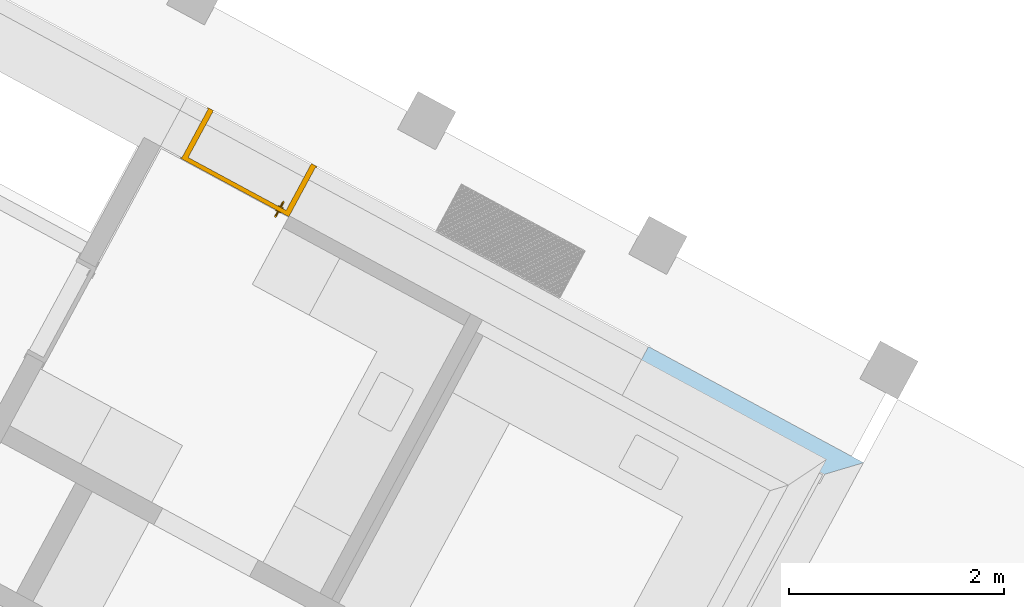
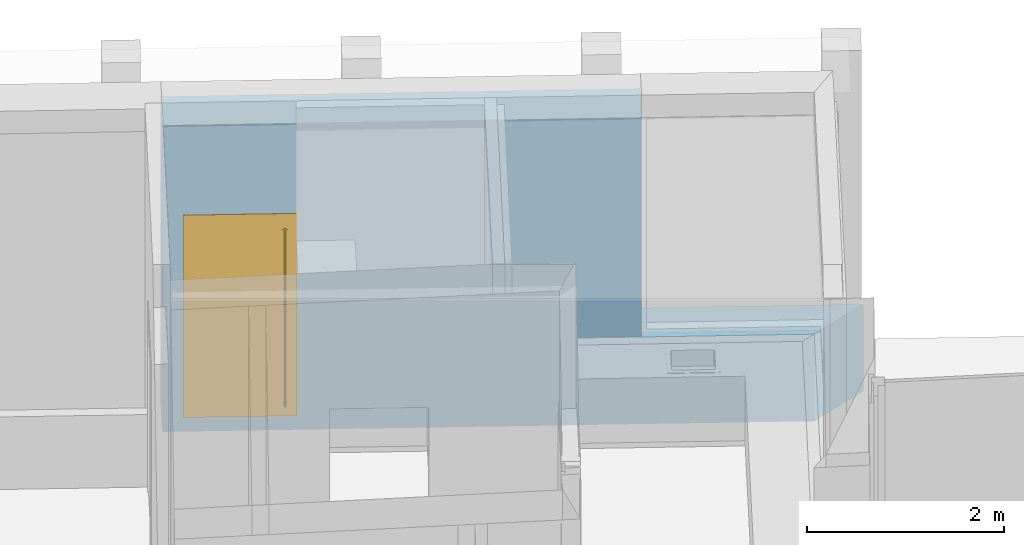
# One storey, part 10 of 36: 1 door, 2 openings, plus 1 element that does not belong to this part.
"""IFC2X3 building model written with IfcOpenShell, lengths in metres."""

import ifcopenshell
import ifcopenshell.guid

model = None  # the IFC model being written
_history = None  # IfcOwnerHistory: only IFC2X3 demands one
_inside = {}  # id of a spatial element -> (the spatial element, [elements in it])
_under = {}  # id of a project, library or spatial element -> (it, [spatial elements below it])
_declared = {}  # id of a project -> (the project, [libraries it declares])
_typed = {}  # id of a type object -> (the type object, [elements of that type])
_made_of = {}  # id of a material, layer set ... -> (it, [elements and type objects made of it])


def new_model(schema):
    """Start an empty IFC model of exactly this schema.

    Asked for "IFC4X3", IfcOpenShell would pick the latest addendum, in which some entities
    have other attributes; the version numbers below select the first issue.
    IFC2X3 requires an IfcOwnerHistory on every rooted entity: one is made here for all.
    """
    global model, _history
    if schema == "IFC4X3":
        model = ifcopenshell.file(schema_version=(4, 3, 0, 0))
    else:
        model = ifcopenshell.file(schema=schema)
    _inside.clear()
    _under.clear()
    _declared.clear()
    _typed.clear()
    _made_of.clear()
    _history = None
    if model.schema == "IFC2X3":
        org = make("IfcOrganization", Name="unknown")
        user = make(
            "IfcPersonAndOrganization",
            ThePerson=make("IfcPerson", FamilyName="unknown"),
            TheOrganization=org,
        )
        app = make(
            "IfcApplication",
            ApplicationDeveloper=org,
            Version="unknown",
            ApplicationFullName="unknown",
            ApplicationIdentifier="unknown",
        )
        _history = make(
            "IfcOwnerHistory",
            OwningUser=user,
            OwningApplication=app,
            ChangeAction="ADDED",
            CreationDate=0,
        )
    return model


def make(cls, **values):
    """One entity of the class cls with the attributes given. An attribute that is None is left unset."""
    return model.create_entity(
        cls, **{name: value for name, value in values.items() if value is not None}
    )


def entity(cls, *values):
    """Any entity or typed value of the class cls, its attributes in the order of the schema. None: left unset."""
    e = model.create_entity(cls)
    for i, value in enumerate(values):
        if value is not None:
            e[i] = value
    return e


def rooted(cls, **values):
    """An entity with a GlobalId (a new one), such as an element, a storey or a relation."""
    return make(cls, GlobalId=ifcopenshell.guid.new(), OwnerHistory=_history, **values)


def si_unit(unit_type, name, prefix=None):
    """IfcSIUnit, for example si_unit("LENGTHUNIT", "METRE", prefix="MILLI")."""
    return make("IfcSIUnit", UnitType=unit_type, Prefix=prefix, Name=name)


def converted_unit(unit_type, name, factor, base, dimensions=None, offset=None):
    """IfcConversionBasedUnit, such as the inch: factor (a typed value) times the base unit."""
    return make(
        "IfcConversionBasedUnit"
        if offset is None
        else "IfcConversionBasedUnitWithOffset",
        ConversionOffset=offset,
        Dimensions=None
        if dimensions is None
        else entity("IfcDimensionalExponents", *dimensions),
        UnitType=unit_type,
        Name=name,
        ConversionFactor=make(
            "IfcMeasureWithUnit", ValueComponent=factor, UnitComponent=base
        ),
    )


def derived_unit(unit_type, elements):
    """IfcDerivedUnit: a product of units, each with its exponent."""
    return make(
        "IfcDerivedUnit",
        Elements=[
            make("IfcDerivedUnitElement", Unit=unit, Exponent=power)
            for unit, power in elements
        ],
        UnitType=unit_type,
    )


def money_unit(currency):
    """IfcMonetaryUnit."""
    return make("IfcMonetaryUnit", Currency=currency)


def assignment(units):
    """IfcUnitAssignment: the units of a project."""
    return None if units is None else make("IfcUnitAssignment", Units=units)


def point(xyz):
    """IfcCartesianPoint."""
    return None if xyz is None else make("IfcCartesianPoint", Coordinates=xyz)


def direction(xyz):
    """IfcDirection."""
    return None if xyz is None else make("IfcDirection", DirectionRatios=xyz)


def frame(location, z_axis=None, x_axis=None):
    """IfcAxis2Placement3D, a coordinate frame: its origin and axes. An axis left out is left unset."""
    return make(
        "IfcAxis2Placement3D",
        Location=point(location),
        Axis=direction(z_axis),
        RefDirection=direction(x_axis),
    )


def frame_2d(location, x_axis=None):
    """IfcAxis2Placement2D, a coordinate frame in the plane: its origin and x axis."""
    return make(
        "IfcAxis2Placement2D", Location=point(location), RefDirection=direction(x_axis)
    )


def origin_with_axes():
    """The frame at (0, 0, 0) with the z axis (0, 0, 1) and the x axis (1, 0, 0) written out."""
    return frame((0.0, 0.0, 0.0), z_axis=(0.0, 0.0, 1.0), x_axis=(1.0, 0.0, 0.0))


def origin_2d_with_axis():
    """The frame at (0, 0) in the plane with the x axis (1, 0) written out."""
    return frame_2d((0.0, 0.0), x_axis=(1.0, 0.0))


def place(relative_to, where):
    """IfcLocalPlacement: puts the frame where relative to a parent placement (None: the world)."""
    return make(
        "IfcLocalPlacement", PlacementRelTo=relative_to, RelativePlacement=where
    )


def context(
    kind, dimensions, precision=None, world=None, true_north=None, identifier=None
):
    """IfcGeometricRepresentationContext, for example the 3D "Model" context."""
    return make(
        "IfcGeometricRepresentationContext",
        ContextIdentifier=identifier,
        ContextType=kind,
        CoordinateSpaceDimension=dimensions,
        Precision=precision,
        WorldCoordinateSystem=world,
        TrueNorth=true_north,
    )


def subcontext(parent, identifier, kind, view, scale=None):
    """IfcGeometricRepresentationSubContext, for example "Body" below "Model"."""
    return make(
        "IfcGeometricRepresentationSubContext",
        ContextIdentifier=identifier,
        ContextType=kind,
        ParentContext=parent,
        TargetScale=scale,
        TargetView=view,
    )


def project(units=None, contexts=None):
    """IfcProject with its units and contexts."""
    return rooted(
        "IfcProject",
        Name="project",
        RepresentationContexts=contexts,
        UnitsInContext=assignment(units),
    )


def spatial(cls, under=None, at=None, **own):
    """A site, building, storey or space (cls), placed at a placement, below another one or the project."""
    s = rooted(cls, ObjectPlacement=at, **own)
    if under is not None:
        _under.setdefault(under.id(), (under, []))[1].append(s)
    return s


def polyline(points):
    """IfcPolyline through the points."""
    return make("IfcPolyline", Points=[point(p) for p in points])


def profile(cls, at=None, kind="AREA", **sizes):
    """A parametric profile (cls). Its sizes go by their IFC names, for example OverallWidth=200.0."""
    return make(cls, ProfileType=kind, Position=at, **sizes)


def rectangle(**sizes):
    """IfcRectangleProfileDef."""
    return profile("IfcRectangleProfileDef", **sizes)


def outline(outer, holes=None, kind="AREA"):
    """IfcArbitraryClosedProfileDef: a profile drawn as a closed curve; with holes, ...WithVoids."""
    if holes is None:
        return make("IfcArbitraryClosedProfileDef", ProfileType=kind, OuterCurve=outer)
    return make(
        "IfcArbitraryProfileDefWithVoids",
        ProfileType=kind,
        OuterCurve=outer,
        InnerCurves=holes,
    )


def extrude(swept, where, along, depth):
    """IfcExtrudedAreaSolid: the profile swept, set in the frame where, extruded along a direction by depth."""
    return make(
        "IfcExtrudedAreaSolid",
        SweptArea=swept,
        Position=where,
        ExtrudedDirection=direction(along),
        Depth=depth,
    )


def faces_of(points, faces, orient=None, outer=None):
    """IfcFace entities. A face is a list of loops; a loop is a list of indices into points, from 0.

    orient and outer hold one flag for each loop. By default every Orientation is true, the
    first loop of a face is its IfcFaceOuterBound and the others are IfcFaceBound.
    """
    made = []
    for i, loops in enumerate(faces):
        bounds = []
        for j, loop in enumerate(loops):
            is_outer = j == 0 if outer is None else outer[i][j]
            bounds.append(
                make(
                    "IfcFaceOuterBound" if is_outer else "IfcFaceBound",
                    Bound=make("IfcPolyLoop", Polygon=[points[k] for k in loop]),
                    Orientation=True if orient is None else orient[i][j],
                )
            )
        made.append(make("IfcFace", Bounds=bounds))
    return made


def open_shell(faces, orient=None, outer=None):
    """The faces of one IfcOpenShell. surface_model builds it on its shared points."""
    return ("IfcOpenShell", faces, orient, outer)


def faceted_brep(points, faces, orient=None, outer=None, voids=None):
    """IfcFacetedBrep: a solid bounded by flat faces; with voids (closed shells), ...WithVoids."""
    shared = [point(p) for p in points]
    hull = make("IfcClosedShell", CfsFaces=faces_of(shared, faces, orient, outer))
    if voids is None:
        return make("IfcFacetedBrep", Outer=hull)
    return make(
        "IfcFacetedBrepWithVoids",
        Outer=hull,
        Voids=[
            make(cls, CfsFaces=faces_of(shared, fs, o, b)) for cls, fs, o, b in voids
        ],
    )


def surface_model(cls, points, shells):
    """IfcFaceBasedSurfaceModel or IfcShellBasedSurfaceModel (cls): surfaces that need not close."""
    shared = [point(p) for p in points]
    made = [make(c, CfsFaces=faces_of(shared, fs, o, b)) for c, fs, o, b in shells]
    if cls == "IfcFaceBasedSurfaceModel":
        return make(cls, FbsmFaces=made)
    return make(cls, SbsmBoundary=made)


def shape(context_of_items, identifier, shape_type, items):
    """IfcShapeRepresentation: the items that make up one representation, for example the "Body"."""
    return make(
        "IfcShapeRepresentation",
        ContextOfItems=context_of_items,
        RepresentationIdentifier=identifier,
        RepresentationType=shape_type,
        Items=items,
    )


def material(Name=None, Category=None):
    """IfcMaterial."""
    return make("IfcMaterial", Name=Name, Category=Category)


def layer(
    of_material, thickness, ventilated=None, Name=None, Category=None, Priority=None
):
    """IfcMaterialLayer: one layer of a wall or slab, of a material (None: an air gap)."""
    return make(
        "IfcMaterialLayer",
        Material=of_material,
        LayerThickness=thickness,
        IsVentilated=ventilated,
        Name=Name,
        Category=Category,
        Priority=Priority,
    )


def layer_set(layers, Name=None):
    """IfcMaterialLayerSet."""
    return make("IfcMaterialLayerSet", MaterialLayers=layers, LayerSetName=Name)


def layer_usage(for_layer_set, set_direction, sense, offset, extent=None):
    """IfcMaterialLayerSetUsage: how a layer set lies in its element."""
    return make(
        "IfcMaterialLayerSetUsage",
        ForLayerSet=for_layer_set,
        LayerSetDirection=set_direction,
        DirectionSense=sense,
        OffsetFromReferenceLine=offset,
        ReferenceExtent=extent,
    )


def made_of(thing, what):
    """Note that an element or type object is made of a material, layer set ...; save() writes the relation."""
    if what is not None:
        _made_of.setdefault(what.id(), (what, []))[1].append(thing)
    return thing


def type_object(cls, material=None, **own):
    """A type object (cls), such as IfcWallType, which elements share."""
    return made_of(rooted(cls, **own), material)


def element(
    cls,
    number,
    at=None,
    inside=None,
    cuts=None,
    type_object=None,
    material=None,
    context=None,
    identifier="Body",
    shape_type=None,
    held_by="IfcProductDefinitionShape",
    body=None,
    shapes=None,
    **own,
):
    """One element of the class cls, such as IfcWall. Its Tag is "e" and its number.

    at: its placement. inside: the storey or other place that contains it. cuts: it is an
    opening in that element (IfcRelVoidsElement). A single representation is given by context,
    identifier, shape_type and body (its items); several are given by shapes. held_by: the class
    of the entity that holds the representations. save() writes the other relations.
    """
    e = rooted(cls, Tag="e%d" % number, ObjectPlacement=at, **own)
    if body is not None:
        shapes = [shape(context, identifier, shape_type, body)]
    if shapes is not None:
        e.Representation = make(held_by, Representations=shapes)
    if inside is not None:
        _inside.setdefault(inside.id(), (inside, []))[1].append(e)
    if cuts is not None:
        rooted(
            "IfcRelVoidsElement", RelatingBuildingElement=cuts, RelatedOpeningElement=e
        )
    if type_object is not None:
        _typed.setdefault(type_object.id(), (type_object, []))[1].append(e)
    return made_of(e, material)


def fill(opening, filler):
    """IfcRelFillsElement: the door or window that sits in an opening."""
    return rooted(
        "IfcRelFillsElement",
        RelatingOpeningElement=opening,
        RelatedBuildingElement=filler,
    )


def aggregate(whole, parts):
    """IfcRelAggregates: a whole, such as a stair, and the parts it consists of."""
    return rooted("IfcRelAggregates", RelatingObject=whole, RelatedObjects=parts)


def save(model, path):
    """Write the relations noted so far, then the file.

    IfcRelAggregates (storeys below a building ...), IfcRelContainedInSpatialStructure (elements
    in a storey), IfcRelDefinesByType, IfcRelAssociatesMaterial and IfcRelDeclares: one each for
    every whole, place, type object, material and project.
    """
    for whole, parts in _under.values():
        aggregate(whole, parts)
    for where, things in _inside.values():
        rooted(
            "IfcRelContainedInSpatialStructure",
            RelatedElements=things,
            RelatingStructure=where,
        )
    for kind, things in _typed.values():
        rooted("IfcRelDefinesByType", RelatedObjects=things, RelatingType=kind)
    for what, things in _made_of.values():
        rooted("IfcRelAssociatesMaterial", RelatedObjects=things, RelatingMaterial=what)
    for by, libraries in _declared.values():
        rooted("IfcRelDeclares", RelatingContext=by, RelatedDefinitions=libraries)
    model.write(path)


model = new_model("IFC2X3")

# Units and contexts
model_context = context("Model", 3, precision=1e-05, world=origin_with_axes(), true_north=direction((0.0, 1.0)))
body_context = subcontext(model_context, "Body", "Model", "MODEL_VIEW")
ifc_project = project(units=[si_unit("LENGTHUNIT", "METRE"), si_unit("AREAUNIT", "SQUARE_METRE"), si_unit("VOLUMEUNIT", "CUBIC_METRE"), converted_unit("PLANEANGLEUNIT", "DEGREE", entity("IfcPlaneAngleMeasure", 0.0174532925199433), si_unit("PLANEANGLEUNIT", "RADIAN"), dimensions=[0, 0, 0, 0, 0, 0, 0]), money_unit("EUR"), converted_unit("TIMEUNIT", "Year", entity("IfcTimeMeasure", 31556926.0), si_unit("TIMEUNIT", "SECOND"), dimensions=[0, 0, 1, 0, 0, 0, 0]), si_unit("MASSUNIT", "GRAM", prefix="KILO"), si_unit("THERMODYNAMICTEMPERATUREUNIT", "DEGREE_CELSIUS"), si_unit("LUMINOUSINTENSITYUNIT", "LUMEN"), si_unit("ENERGYUNIT", "JOULE", prefix="MEGA"), derived_unit("THERMALCONDUCTANCEUNIT", [(si_unit("POWERUNIT", "WATT"), 1), (si_unit("LENGTHUNIT", "METRE"), -1), (si_unit("THERMODYNAMICTEMPERATUREUNIT", "KELVIN"), -1)]), derived_unit("SPECIFICHEATCAPACITYUNIT", [(si_unit("ENERGYUNIT", "JOULE"), 1), (si_unit("MASSUNIT", "GRAM", prefix="KILO"), -1), (si_unit("THERMODYNAMICTEMPERATUREUNIT", "KELVIN"), -1)]), derived_unit("MASSDENSITYUNIT", [(si_unit("MASSUNIT", "GRAM", prefix="KILO"), 1), (si_unit("VOLUMEUNIT", "CUBIC_METRE"), -1)])], contexts=[model_context])

# Site, building, storey
site_placement = place(None, frame((-3.949935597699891, 1.740105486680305, 0.0), z_axis=(0.0, 0.0, 1.0), x_axis=(0.8799804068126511, -0.475009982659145, 0.0)))
site = spatial("IfcSite", under=ifc_project, at=site_placement, Name="Gelände", CompositionType="ELEMENT")
building_placement = place(site_placement, origin_with_axes())
building = spatial("IfcBuilding", under=site, at=building_placement, Name="Gebäude", CompositionType="ELEMENT")
storey_placement = place(building_placement, origin_with_axes())
storey = spatial("IfcBuildingStorey", under=building, at=storey_placement, Name="Erdgeschoss", CompositionType="ELEMENT", Elevation=0.0)

# Wall, openings, door
ifc_material_1 = material(Name="_SIWH - MW Vormauerziegel")
ifc_layer_1 = layer(ifc_material_1, 0.115, ventilated="UNKNOWN")
ifc_material_2 = material(Name="_SIWH - Luftschicht vertikal")
ifc_layer_2 = layer(ifc_material_2, 0.02, ventilated="UNKNOWN")
ifc_material_3 = material(Name="_SIWH - Dämmung, weich Mineralwolle")
ifc_layer_3 = layer(ifc_material_3, 0.18, ventilated="UNKNOWN")
ifc_material_4 = material(Name="_SIWH - Beton, Stahlbeton")
ifc_layer_4 = layer(ifc_material_4, 0.2, ventilated="UNKNOWN")
ifc_layer_set = layer_set([ifc_layer_1, ifc_layer_2, ifc_layer_3, ifc_layer_4], Name="_SIWH - WA | Stb. 20+WD 18+LS 2+Verblender 11,5 | 51,5cm")
ifc_layer_usage = layer_usage(ifc_layer_set, "AXIS2", "POSITIVE", -0.315)
wall_type = type_object("IfcWallType", Name="_SIWH - WA | Stb. 20+WD 18+LS 2+Verblender 11,5 | 51,5cm 515", PredefinedType="NOTDEFINED")
wall_placement = place(storey_placement, frame((17.3674759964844, 19.20028827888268, -0.1800000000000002), z_axis=(0.0, 0.0, 1.0), x_axis=(-0.9999999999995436, 9.555231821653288e-07, 0.0)))
wall = element("IfcWallStandardCase", 1, at=wall_placement, inside=storey, type_object=wall_type, material=ifc_layer_usage, Name="A-Wand001", ObjectType="NOTDEFINED", context=body_context, shape_type="SweptSolid", body=[
    extrude(outline(polyline([(-0.3149983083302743, -0.3149999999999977), (6.830081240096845, -0.3149999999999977), (6.830081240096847, 0.2000000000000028), (0.1999989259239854, 0.2000000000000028), (-0.3149983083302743, -0.3149999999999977)])), origin_with_axes(), (0.0, 0.0, 1.0), 3.800000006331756),
])
opening_1_placement = place(wall_placement, frame((1.075006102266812, 0.0, 1.08), z_axis=(0.0, 0.0, 1.0), x_axis=(1.0, 0.0, 0.0)))
element("IfcOpeningElement", 2, at=opening_1_placement, cuts=wall, Name="Eckfenster-008", context=body_context, shape_type="Brep", body=[
    faceted_brep([(0.8800000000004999, 0.125, 2.720000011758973), (-0.9500067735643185, 0.1250000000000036, 2.720000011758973), (-1.390000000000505, -0.3149955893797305, 2.720000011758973), (-1.390000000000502, -0.3160065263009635, 2.720000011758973), (0.8800000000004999, -0.3160065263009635, 2.720000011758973), (0.8800000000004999, 0.2010065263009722, 2.720000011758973), (-0.8740006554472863, 0.2010065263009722, 2.720000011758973), (-0.8740006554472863, 0.2010065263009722, 0.0), (-0.9500067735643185, 0.1250000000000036, 0.0), (-1.390000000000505, -0.3149955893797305, 0.0), (-1.390000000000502, -0.3160065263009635, 0.0), (0.8800000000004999, -0.3160065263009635, 0.0), (0.8800000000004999, 0.125, 0.0), (0.8800000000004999, 0.2010065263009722, 0.0)], [[[0, 1, 2, 3, 4]], [[1, 0, 5, 6]], [[2, 1, 6, 7, 8, 9]], [[9, 10, 3, 2]], [[3, 10, 11, 4]], [[12, 0, 4, 11]], [[0, 12, 13, 5]], [[5, 13, 7, 6]], [[12, 8, 7, 13]], [[8, 12, 11, 10, 9]]]),
])
opening_2_placement = place(wall_placement, frame((6.037583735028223, 0.0, 0.1800000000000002), z_axis=(0.0, 0.0, 1.0), x_axis=(1.0, 0.0, 0.0)))
opening_2 = element("IfcOpeningElement", 3, at=opening_2_placement, cuts=wall, Name="Tür-017", context=body_context, shape_type="SweptSolid", body=[
    extrude(rectangle(XDim=1.134999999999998, YDim=2.5, at=origin_2d_with_axis()), frame((0.0, 0.5150000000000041, 1.25), z_axis=(0.0, -1.0, 0.0), x_axis=(1.0, 0.0, 0.0)), (0.0, 0.0, 1.0), 1.545),
])
door_style = type_object("IfcDoorStyle", Name="Eingangstür 02 1 22", ConstructionType="NOTDEFINED", OperationType="SINGLE_SWING_RIGHT", ParameterTakesPrecedence=False, Sizeable=False)
door_placement = place(opening_2_placement, frame((-0.5674999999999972, 0.0, 0.0), z_axis=(0.0, 0.0, 1.0), x_axis=(1.0, 0.0, 0.0)))
door = element("IfcDoor", 4, at=door_placement, inside=storey, type_object=door_style, Name="Tür-017", ObjectType="DOOR", OverallHeight=2.5, OverallWidth=1.135, context=body_context, shape_type="SurfaceModel", body=[
    faceted_brep([(1.135, -0.3249999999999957, 0.0), (1.135, 0.1700000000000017, 0.0), (1.135, 0.1700000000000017, 2.5), (1.135, -0.3249999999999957, 2.5), (1.085000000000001, -0.3249999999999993, 0.0), (1.084999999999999, 0.1699999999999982, 0.0), (1.084999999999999, 0.1699999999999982, 2.45), (0.6676000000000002, 0.1700000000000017, 2.45), (0.5676000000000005, 0.1700000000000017, 2.45), (0.05000000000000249, 0.1700000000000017, 2.45), (0.05000000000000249, 0.1700000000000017, 0.0), (0.0, 0.1699999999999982, 0.0), (0.0, 0.1699999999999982, 2.5), (0.0, -0.3249999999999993, 2.5), (0.0, -0.3249999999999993, 0.0), (0.05000000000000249, -0.3249999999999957, 0.0), (0.05000000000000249, -0.3249999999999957, 2.45), (0.5676000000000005, -0.3249999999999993, 2.45), (0.6676000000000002, -0.3249999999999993, 2.45), (1.085000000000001, -0.3249999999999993, 2.45)], [[[0, 1, 2, 3]], [[4, 5, 1, 0]], [[1, 5, 6, 7, 8, 9, 10, 11, 12, 2]], [[3, 2, 12, 13]], [[0, 3, 13, 14, 15, 16, 17, 18, 19, 4]], [[19, 6, 5, 4]], [[18, 7, 6, 19]], [[17, 8, 7, 18]], [[16, 9, 8, 17]], [[15, 10, 9, 16]], [[14, 11, 10, 15]], [[13, 12, 11, 14]]]),
    faceted_brep([(1.135, 0.1700000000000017, 0.0), (1.135, 0.2100000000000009, 0.0), (1.135, 0.2100000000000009, 2.5), (1.135, 0.1700000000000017, 2.5), (1.084999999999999, 0.1699999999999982, 0.0), (1.084999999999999, 0.2100000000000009, 0.0), (1.084999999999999, 0.2100000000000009, 2.45), (0.6676000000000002, 0.2100000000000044, 2.45), (0.5676000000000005, 0.2100000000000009, 2.45), (0.05000000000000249, 0.2100000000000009, 2.45), (0.05000000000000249, 0.2100000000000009, 0.0), (0.0, 0.2100000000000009, 0.0), (0.0, 0.2100000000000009, 2.5), (0.0, 0.1699999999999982, 2.5), (0.0, 0.1699999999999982, 0.0), (0.05000000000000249, 0.1700000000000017, 0.0), (0.05000000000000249, 0.1700000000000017, 2.45), (0.5676000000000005, 0.1700000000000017, 2.45), (0.6676000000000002, 0.1700000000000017, 2.45), (1.084999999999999, 0.1699999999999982, 2.45)], [[[0, 1, 2, 3]], [[4, 5, 1, 0]], [[1, 5, 6, 7, 8, 9, 10, 11, 12, 2]], [[3, 2, 12, 13]], [[0, 3, 13, 14, 15, 16, 17, 18, 19, 4]], [[19, 6, 5, 4]], [[18, 7, 6, 19]], [[17, 8, 7, 18]], [[16, 9, 8, 17]], [[15, 10, 9, 16]], [[14, 11, 10, 15]], [[13, 12, 11, 14]]]),
    faceted_brep([(1.145, -0.3249999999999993, 0.0), (1.145, -0.3150000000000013, 0.0), (1.145, -0.3149999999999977, 2.51), (1.145, -0.3249999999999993, 2.51), (1.135, -0.3249999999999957, 0.0), (1.135000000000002, -0.3150000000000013, 0.0), (1.135000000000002, -0.3150000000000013, 2.5), (0.0, -0.3150000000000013, 2.5), (0.0, -0.3150000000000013, 0.0), (-0.009999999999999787, -0.3150000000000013, 0.0), (-0.009999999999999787, -0.3150000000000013, 2.51), (-0.009999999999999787, -0.3249999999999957, 2.51), (-0.009999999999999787, -0.3249999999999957, 0.0), (0.0, -0.3249999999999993, 0.0), (0.0, -0.3249999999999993, 2.5), (1.135, -0.3249999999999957, 2.5)], [[[0, 1, 2, 3]], [[4, 5, 1, 0]], [[1, 5, 6, 7, 8, 9, 10, 2]], [[3, 2, 10, 11]], [[0, 3, 11, 12, 13, 14, 15, 4]], [[15, 6, 5, 4]], [[14, 7, 6, 15]], [[13, 8, 7, 14]], [[12, 9, 8, 13]], [[11, 10, 9, 12]]]),
    faceted_brep([(1.145000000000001, 0.1999999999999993, 0.0), (1.145, 0.2100000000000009, 0.0), (1.145, 0.2100000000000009, 2.51), (1.145000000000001, 0.1999999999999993, 2.51), (1.135, 0.1999999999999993, 0.0), (1.135, 0.2100000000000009, 0.0), (1.135, 0.2100000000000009, 2.5), (0.0, 0.2100000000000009, 2.5), (0.0, 0.2100000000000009, 0.0), (-0.009999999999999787, 0.2100000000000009, 0.0), (-0.009999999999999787, 0.2100000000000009, 2.51), (-0.009999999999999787, 0.2000000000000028, 2.51), (-0.009999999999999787, 0.2000000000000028, 0.0), (0.0, 0.1999999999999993, 0.0), (0.0, 0.1999999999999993, 2.5), (1.135, 0.1999999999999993, 2.5)], [[[0, 1, 2, 3]], [[4, 5, 1, 0]], [[1, 5, 6, 7, 8, 9, 10, 2]], [[3, 2, 10, 11]], [[0, 3, 11, 12, 13, 14, 15, 4]], [[15, 6, 5, 4]], [[14, 7, 6, 15]], [[13, 8, 7, 14]], [[12, 9, 8, 13]], [[11, 10, 9, 12]]]),
    faceted_brep([(1.084999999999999, 0.1699999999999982, 0.0), (0.05000000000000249, 0.1700000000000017, 0.0), (0.05000000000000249, 0.2100000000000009, 0.0), (1.084999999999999, 0.2100000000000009, 0.0), (1.084999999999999, 0.1699999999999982, 2.45), (0.05000000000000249, 0.1700000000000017, 2.45), (0.05000000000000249, 0.2100000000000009, 2.45), (1.084999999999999, 0.2100000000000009, 2.45)], [[[0, 1, 2, 3]], [[0, 4, 5, 1]], [[1, 5, 6, 2]], [[3, 2, 6, 7]], [[4, 0, 3, 7]], [[5, 4, 7, 6]]]),
    faceted_brep([(0.1100000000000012, 0.1600000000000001, 0.14), (0.1170710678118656, 0.1600000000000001, 0.1429289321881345), (0.1170710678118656, 0.1290690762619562, 0.1429289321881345), (0.1099999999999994, 0.1286834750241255, 0.14), (0.102928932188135, 0.1600000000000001, 0.1429289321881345), (0.1000000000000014, 0.1599999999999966, 0.15), (0.102928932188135, 0.1600000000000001, 0.1570710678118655), (0.1100000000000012, 0.1600000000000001, 0.16), (0.1170710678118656, 0.1600000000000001, 0.1570710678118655), (0.120000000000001, 0.1600000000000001, 0.15), (0.120000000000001, 0.129999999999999, 0.15), (0.1170710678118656, 0.1188397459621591, 0.1456698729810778), (0.1100000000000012, 0.1173236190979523, 0.1430438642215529), (0.102928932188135, 0.1290690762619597, 0.1429289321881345), (0.1000000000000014, 0.1300000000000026, 0.15), (0.102928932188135, 0.1309309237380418, 0.1570710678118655), (0.1100000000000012, 0.1313165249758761, 0.16), (0.1170710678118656, 0.1309309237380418, 0.1570710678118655), (0.120000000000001, 0.1224999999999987, 0.1520096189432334), (0.1170710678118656, 0.1106698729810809, 0.1538397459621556), (0.1100000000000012, 0.1080438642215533, 0.1523236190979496), (0.102928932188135, 0.1188397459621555, 0.1456698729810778), (0.1000000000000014, 0.1225000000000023, 0.1520096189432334), (0.102928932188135, 0.1261602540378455, 0.158349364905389), (0.1100000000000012, 0.1276763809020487, 0.160975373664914), (0.1170710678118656, 0.126160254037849, 0.158349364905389), (0.120000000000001, 0.1170096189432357, 0.1575), (0.1170710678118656, 0.1079289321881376, 0.1640690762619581), (0.1099999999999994, 0.1050000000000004, 0.163683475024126), (0.102928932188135, 0.1106698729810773, 0.1538397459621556), (0.1000000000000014, 0.1170096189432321, 0.1575), (0.102928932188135, 0.1233493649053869, 0.1611602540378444), (0.1100000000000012, 0.1259753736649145, 0.1626763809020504), (0.1170710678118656, 0.1233493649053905, 0.1611602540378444), (0.120000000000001, 0.1149999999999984, 0.165), (0.1170710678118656, 0.1079289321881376, 2.285930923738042), (0.1099999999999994, 0.1050000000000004, 2.286316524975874), (0.102928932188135, 0.1079289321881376, 0.1640690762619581), (0.1000000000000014, 0.115000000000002, 0.165), (0.102928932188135, 0.1220710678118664, 0.1659309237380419), (0.1099999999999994, 0.125, 0.166316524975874), (0.1170710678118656, 0.1220710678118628, 0.1659309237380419), (0.120000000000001, 0.1149999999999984, 2.285), (0.1170710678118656, 0.1106698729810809, 2.296160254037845), (0.1100000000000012, 0.1080438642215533, 2.29767638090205), (0.102928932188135, 0.1079289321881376, 2.285930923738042), (0.1000000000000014, 0.115000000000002, 2.285), (0.102928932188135, 0.1220710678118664, 2.284069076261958), (0.1099999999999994, 0.125, 2.283683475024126), (0.1170710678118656, 0.1220710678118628, 2.284069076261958), (0.120000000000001, 0.1170096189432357, 2.2925), (0.1170710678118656, 0.1188397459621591, 2.304330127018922), (0.1100000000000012, 0.1173236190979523, 2.306956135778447), (0.102928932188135, 0.1106698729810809, 2.296160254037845), (0.1000000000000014, 0.1170096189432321, 2.2925), (0.102928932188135, 0.1233493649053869, 2.288839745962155), (0.1100000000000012, 0.1259753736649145, 2.28732361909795), (0.1170710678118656, 0.1233493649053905, 2.288839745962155), (0.120000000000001, 0.1224999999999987, 2.297990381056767), (0.1170710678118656, 0.1290690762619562, 2.307071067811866), (0.1099999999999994, 0.1286834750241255, 2.31), (0.102928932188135, 0.1188397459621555, 2.304330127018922), (0.1000000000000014, 0.1225000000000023, 2.297990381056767), (0.1029289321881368, 0.1261602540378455, 2.291650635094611), (0.1100000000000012, 0.1276763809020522, 2.289024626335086), (0.1170710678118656, 0.126160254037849, 2.291650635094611), (0.120000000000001, 0.129999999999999, 2.3), (0.1170710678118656, 0.1600000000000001, 2.307071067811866), (0.1100000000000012, 0.1600000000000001, 2.31), (0.102928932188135, 0.1290690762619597, 2.307071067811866), (0.1000000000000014, 0.1300000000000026, 2.3), (0.102928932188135, 0.1309309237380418, 2.292928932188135), (0.1100000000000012, 0.1313165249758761, 2.29), (0.1170710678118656, 0.1309309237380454, 2.292928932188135), (0.120000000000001, 0.1600000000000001, 2.3), (0.1170710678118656, 0.1600000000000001, 2.292928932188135), (0.1100000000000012, 0.1600000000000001, 2.29), (0.102928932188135, 0.1600000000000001, 2.292928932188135), (0.1000000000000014, 0.1599999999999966, 2.3), (0.102928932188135, 0.1600000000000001, 2.307071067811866)], [[[0, 1, 2, 3]], [[0, 4, 5, 6, 7, 8, 9, 1]], [[1, 9, 10, 2]], [[3, 2, 11, 12]], [[4, 0, 3, 13]], [[5, 4, 13, 14]], [[6, 5, 14, 15]], [[7, 6, 15, 16]], [[8, 7, 16, 17]], [[9, 8, 17, 10]], [[2, 10, 18, 11]], [[12, 11, 19, 20]], [[13, 3, 12, 21]], [[14, 13, 21, 22]], [[15, 14, 22, 23]], [[16, 15, 23, 24]], [[17, 16, 24, 25]], [[10, 17, 25, 18]], [[11, 18, 26, 19]], [[20, 19, 27, 28]], [[21, 12, 20, 29]], [[22, 21, 29, 30]], [[23, 22, 30, 31]], [[24, 23, 31, 32]], [[25, 24, 32, 33]], [[18, 25, 33, 26]], [[19, 26, 34, 27]], [[28, 27, 35, 36]], [[29, 20, 28, 37]], [[30, 29, 37, 38]], [[31, 30, 38, 39]], [[32, 31, 39, 40]], [[33, 32, 40, 41]], [[26, 33, 41, 34]], [[27, 34, 42, 35]], [[36, 35, 43, 44]], [[37, 28, 36, 45]], [[38, 37, 45, 46]], [[39, 38, 46, 47]], [[40, 39, 47, 48]], [[41, 40, 48, 49]], [[34, 41, 49, 42]], [[35, 42, 50, 43]], [[44, 43, 51, 52]], [[45, 36, 44, 53]], [[46, 45, 53, 54]], [[47, 46, 54, 55]], [[48, 47, 55, 56]], [[49, 48, 56, 57]], [[42, 49, 57, 50]], [[43, 50, 58, 51]], [[52, 51, 59, 60]], [[53, 44, 52, 61]], [[54, 53, 61, 62]], [[55, 54, 62, 63]], [[56, 55, 63, 64]], [[57, 56, 64, 65]], [[50, 57, 65, 58]], [[51, 58, 66, 59]], [[60, 59, 67, 68]], [[61, 52, 60, 69]], [[62, 61, 69, 70]], [[63, 62, 70, 71]], [[64, 63, 71, 72]], [[65, 64, 72, 73]], [[58, 65, 73, 66]], [[59, 66, 74, 67]], [[68, 67, 74, 75, 76, 77, 78, 79]], [[69, 60, 68, 79]], [[70, 69, 79, 78]], [[71, 70, 78, 77]], [[72, 71, 77, 76]], [[73, 72, 76, 75]], [[66, 73, 75, 74]]]),
    surface_model("IfcShellBasedSurfaceModel", [(0.08661731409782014, 0.1610000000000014, 0.1365), (0.08300000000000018, 0.1610000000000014, 0.15), (0.08300000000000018, 0.1699999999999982, 0.15), (0.08661731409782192, 0.1700000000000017, 0.1365), (0.0965000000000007, 0.1610000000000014, 0.1266173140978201), (0.1099999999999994, 0.1609999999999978, 0.123), (0.1235000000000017, 0.1610000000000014, 0.1266173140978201), (0.1333826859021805, 0.1610000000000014, 0.1365), (0.1370000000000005, 0.1610000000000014, 0.15), (0.1333826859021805, 0.1610000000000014, 0.1635), (0.1235000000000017, 0.1610000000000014, 0.1733826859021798), (0.1099999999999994, 0.1609999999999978, 0.177), (0.0965000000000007, 0.1610000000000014, 0.1733826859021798), (0.08661731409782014, 0.1610000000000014, 0.1635), (0.08661731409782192, 0.1700000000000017, 0.1635), (0.09650000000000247, 0.1699999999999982, 0.1266173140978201), (0.1100000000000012, 0.1700000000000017, 0.123), (0.1235000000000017, 0.1700000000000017, 0.1266173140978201), (0.1333826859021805, 0.1700000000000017, 0.1365), (0.1369999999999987, 0.1700000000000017, 0.15), (0.1333826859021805, 0.1700000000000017, 0.1635), (0.1235000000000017, 0.1700000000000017, 0.1733826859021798), (0.1100000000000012, 0.1700000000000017, 0.177), (0.09650000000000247, 0.1699999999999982, 0.1733826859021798)], [open_shell([[[0, 1, 2, 3]], [[1, 0, 4, 5, 6, 7, 8, 9, 10, 11, 12, 13]], [[1, 13, 14, 2]], [[4, 0, 3, 15]], [[5, 4, 15, 16]], [[6, 5, 16, 17]], [[7, 6, 17, 18]], [[8, 7, 18, 19]], [[9, 8, 19, 20]], [[10, 9, 20, 21]], [[11, 10, 21, 22]], [[12, 11, 22, 23]], [[13, 12, 23, 14]]])]),
    surface_model("IfcShellBasedSurfaceModel", [(0.08661731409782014, 0.1610000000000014, 2.2865), (0.08300000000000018, 0.1610000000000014, 2.3), (0.08300000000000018, 0.1700000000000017, 2.3), (0.08661731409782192, 0.1700000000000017, 2.2865), (0.0965000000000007, 0.1610000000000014, 2.276617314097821), (0.1099999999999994, 0.1609999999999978, 2.273), (0.1235000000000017, 0.1610000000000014, 2.276617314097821), (0.1333826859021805, 0.1610000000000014, 2.2865), (0.1370000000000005, 0.1610000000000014, 2.3), (0.1333826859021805, 0.1610000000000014, 2.3135), (0.1235000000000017, 0.1610000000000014, 2.32338268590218), (0.1099999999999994, 0.1609999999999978, 2.327), (0.0965000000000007, 0.1610000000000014, 2.32338268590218), (0.08661731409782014, 0.1610000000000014, 2.3135), (0.08661731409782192, 0.1700000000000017, 2.3135), (0.09650000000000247, 0.1699999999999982, 2.276617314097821), (0.1100000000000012, 0.1700000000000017, 2.273), (0.1235000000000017, 0.1700000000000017, 2.276617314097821), (0.1333826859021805, 0.1700000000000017, 2.2865), (0.1369999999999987, 0.1700000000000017, 2.3), (0.1333826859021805, 0.1700000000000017, 2.3135), (0.1235000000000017, 0.1700000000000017, 2.32338268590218), (0.1100000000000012, 0.1700000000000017, 2.327), (0.09650000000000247, 0.1699999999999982, 2.32338268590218)], [open_shell([[[0, 1, 2, 3]], [[1, 0, 4, 5, 6, 7, 8, 9, 10, 11, 12, 13]], [[1, 13, 14, 2]], [[4, 0, 3, 15]], [[5, 4, 15, 16]], [[6, 5, 16, 17]], [[7, 6, 17, 18]], [[8, 7, 18, 19]], [[9, 8, 19, 20]], [[10, 9, 20, 21]], [[11, 10, 21, 22]], [[12, 11, 22, 23]], [[13, 12, 23, 14]]])]),
    faceted_brep([(0.1099999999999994, 0.2200000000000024, 0.14), (0.1100000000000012, 0.2513165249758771, 0.14), (0.1170710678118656, 0.2509309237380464, 0.1429289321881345), (0.1170710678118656, 0.2200000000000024, 0.1429289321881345), (0.102928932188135, 0.2200000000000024, 0.1429289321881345), (0.102928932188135, 0.2509309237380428, 0.1429289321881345), (0.1099999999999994, 0.2626763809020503, 0.1430438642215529), (0.1170710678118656, 0.2611602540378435, 0.1456698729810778), (0.120000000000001, 0.2500000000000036, 0.15), (0.120000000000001, 0.2200000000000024, 0.15), (0.1170710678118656, 0.2200000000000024, 0.1570710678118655), (0.1099999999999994, 0.2200000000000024, 0.16), (0.102928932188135, 0.2200000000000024, 0.1570710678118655), (0.1000000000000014, 0.2200000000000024, 0.15), (0.1000000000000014, 0.2500000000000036, 0.15), (0.102928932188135, 0.2611602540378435, 0.1456698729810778), (0.1099999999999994, 0.2719561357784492, 0.1523236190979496), (0.1170710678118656, 0.2693301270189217, 0.1538397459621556), (0.120000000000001, 0.2575000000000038, 0.1520096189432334), (0.1170710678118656, 0.2490690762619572, 0.1570710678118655), (0.1099999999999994, 0.2486834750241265, 0.16), (0.102928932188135, 0.2490690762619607, 0.1570710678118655), (0.1000000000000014, 0.2575000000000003, 0.1520096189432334), (0.102928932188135, 0.2693301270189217, 0.1538397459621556), (0.1100000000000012, 0.2749999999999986, 0.163683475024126), (0.1170710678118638, 0.272071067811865, 0.1640690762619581), (0.120000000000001, 0.2629903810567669, 0.1575), (0.1170710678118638, 0.2538397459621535, 0.158349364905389), (0.1099999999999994, 0.2523236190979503, 0.160975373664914), (0.102928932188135, 0.2538397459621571, 0.158349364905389), (0.1000000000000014, 0.2629903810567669, 0.1575), (0.102928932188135, 0.2720710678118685, 0.1640690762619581), (0.1100000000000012, 0.2750000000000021, 2.286316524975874), (0.1170710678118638, 0.272071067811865, 2.285930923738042), (0.120000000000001, 0.2650000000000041, 0.165), (0.1170710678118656, 0.2566506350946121, 0.1611602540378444), (0.1099999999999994, 0.2540246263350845, 0.1626763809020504), (0.102928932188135, 0.2566506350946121, 0.1611602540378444), (0.1000000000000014, 0.2650000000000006, 0.165), (0.102928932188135, 0.2720710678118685, 2.285930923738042), (0.1099999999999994, 0.2719561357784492, 2.29767638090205), (0.1170710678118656, 0.2693301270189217, 2.296160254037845), (0.120000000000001, 0.2650000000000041, 2.285), (0.1170710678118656, 0.2579289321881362, 0.1659309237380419), (0.1099999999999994, 0.254999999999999, 0.166316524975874), (0.102928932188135, 0.2579289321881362, 0.1659309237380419), (0.1000000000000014, 0.2650000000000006, 2.285), (0.102928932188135, 0.2693301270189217, 2.296160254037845), (0.1099999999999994, 0.2626763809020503, 2.306956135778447), (0.1170710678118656, 0.2611602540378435, 2.304330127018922), (0.120000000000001, 0.2629903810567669, 2.2925), (0.1170710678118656, 0.2579289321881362, 2.284069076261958), (0.1099999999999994, 0.254999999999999, 2.283683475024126), (0.102928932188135, 0.2579289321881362, 2.284069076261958), (0.1000000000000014, 0.2629903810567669, 2.2925), (0.102928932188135, 0.2611602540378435, 2.304330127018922), (0.1100000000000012, 0.2513165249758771, 2.31), (0.1170710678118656, 0.2509309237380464, 2.307071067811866), (0.120000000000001, 0.2575000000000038, 2.297990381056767), (0.1170710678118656, 0.2566506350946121, 2.288839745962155), (0.1099999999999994, 0.2540246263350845, 2.28732361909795), (0.102928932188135, 0.2566506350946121, 2.288839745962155), (0.1000000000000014, 0.2575000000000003, 2.297990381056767), (0.102928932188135, 0.2509309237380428, 2.307071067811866), (0.1099999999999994, 0.2200000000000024, 2.31), (0.1170710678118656, 0.2200000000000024, 2.307071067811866), (0.120000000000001, 0.2500000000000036, 2.3), (0.1170710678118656, 0.2538397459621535, 2.291650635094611), (0.1099999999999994, 0.2523236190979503, 2.289024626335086), (0.102928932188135, 0.2538397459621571, 2.291650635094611), (0.1000000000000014, 0.2500000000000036, 2.3), (0.102928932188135, 0.2200000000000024, 2.307071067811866), (0.1000000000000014, 0.2200000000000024, 2.3), (0.102928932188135, 0.2200000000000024, 2.292928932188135), (0.1099999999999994, 0.2200000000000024, 2.29), (0.1170710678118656, 0.2200000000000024, 2.292928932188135), (0.120000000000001, 0.2200000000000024, 2.3), (0.1170710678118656, 0.2490690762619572, 2.292928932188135), (0.1099999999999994, 0.2486834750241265, 2.29), (0.102928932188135, 0.2490690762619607, 2.292928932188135)], [[[0, 1, 2, 3]], [[4, 5, 1, 0]], [[1, 6, 7, 2]], [[3, 2, 8, 9]], [[0, 3, 9, 10, 11, 12, 13, 4]], [[13, 14, 5, 4]], [[5, 15, 6, 1]], [[6, 16, 17, 7]], [[2, 7, 18, 8]], [[9, 8, 19, 10]], [[10, 19, 20, 11]], [[11, 20, 21, 12]], [[12, 21, 14, 13]], [[14, 22, 15, 5]], [[15, 23, 16, 6]], [[16, 24, 25, 17]], [[7, 17, 26, 18]], [[8, 18, 27, 19]], [[19, 27, 28, 20]], [[20, 28, 29, 21]], [[21, 29, 22, 14]], [[22, 30, 23, 15]], [[23, 31, 24, 16]], [[24, 32, 33, 25]], [[17, 25, 34, 26]], [[18, 26, 35, 27]], [[27, 35, 36, 28]], [[28, 36, 37, 29]], [[29, 37, 30, 22]], [[30, 38, 31, 23]], [[31, 39, 32, 24]], [[32, 40, 41, 33]], [[25, 33, 42, 34]], [[26, 34, 43, 35]], [[35, 43, 44, 36]], [[36, 44, 45, 37]], [[37, 45, 38, 30]], [[38, 46, 39, 31]], [[39, 47, 40, 32]], [[40, 48, 49, 41]], [[33, 41, 50, 42]], [[34, 42, 51, 43]], [[43, 51, 52, 44]], [[44, 52, 53, 45]], [[45, 53, 46, 38]], [[46, 54, 47, 39]], [[47, 55, 48, 40]], [[48, 56, 57, 49]], [[41, 49, 58, 50]], [[42, 50, 59, 51]], [[51, 59, 60, 52]], [[52, 60, 61, 53]], [[53, 61, 54, 46]], [[54, 62, 55, 47]], [[55, 63, 56, 48]], [[56, 64, 65, 57]], [[49, 57, 66, 58]], [[50, 58, 67, 59]], [[59, 67, 68, 60]], [[60, 68, 69, 61]], [[61, 69, 62, 54]], [[62, 70, 63, 55]], [[63, 71, 64, 56]], [[64, 71, 72, 73, 74, 75, 76, 65]], [[57, 65, 76, 66]], [[58, 66, 77, 67]], [[67, 77, 78, 68]], [[68, 78, 79, 69]], [[69, 79, 70, 62]], [[70, 72, 71, 63]], [[79, 73, 72, 70]], [[78, 74, 73, 79]], [[77, 75, 74, 78]], [[66, 76, 75, 77]]]),
    surface_model("IfcShellBasedSurfaceModel", [(0.08661731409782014, 0.2190000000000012, 0.1365), (0.08661731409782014, 0.2100000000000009, 0.1365), (0.08300000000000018, 0.2100000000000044, 0.15), (0.08300000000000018, 0.2190000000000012, 0.15), (0.0965000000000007, 0.2190000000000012, 0.1266173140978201), (0.0965000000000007, 0.2100000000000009, 0.1266173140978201), (0.08661731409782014, 0.2100000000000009, 0.1635), (0.08661731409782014, 0.2190000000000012, 0.1635), (0.0965000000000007, 0.2190000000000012, 0.1733826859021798), (0.1100000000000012, 0.2190000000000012, 0.177), (0.1235000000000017, 0.2190000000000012, 0.1733826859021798), (0.1333826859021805, 0.2190000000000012, 0.1635), (0.1370000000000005, 0.2190000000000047, 0.15), (0.1333826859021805, 0.2190000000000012, 0.1365), (0.1235000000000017, 0.2190000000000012, 0.1266173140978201), (0.1100000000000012, 0.2190000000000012, 0.123), (0.1099999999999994, 0.2100000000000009, 0.123), (0.0965000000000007, 0.2100000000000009, 0.1733826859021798), (0.1099999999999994, 0.2100000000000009, 0.177), (0.1234999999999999, 0.2100000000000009, 0.1733826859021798), (0.1333826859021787, 0.2100000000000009, 0.1635), (0.1370000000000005, 0.2100000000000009, 0.15), (0.1333826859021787, 0.2100000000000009, 0.1365), (0.1234999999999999, 0.2100000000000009, 0.1266173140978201)], [open_shell([[[0, 1, 2, 3]], [[4, 5, 1, 0]], [[3, 2, 6, 7]], [[3, 7, 8, 9, 10, 11, 12, 13, 14, 15, 4, 0]], [[15, 16, 5, 4]], [[7, 6, 17, 8]], [[8, 17, 18, 9]], [[9, 18, 19, 10]], [[10, 19, 20, 11]], [[11, 20, 21, 12]], [[12, 21, 22, 13]], [[13, 22, 23, 14]], [[14, 23, 16, 15]]])]),
    surface_model("IfcShellBasedSurfaceModel", [(0.08661731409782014, 0.2190000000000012, 2.2865), (0.08661731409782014, 0.2100000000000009, 2.2865), (0.08300000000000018, 0.2100000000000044, 2.3), (0.08300000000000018, 0.2190000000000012, 2.3), (0.09650000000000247, 0.2190000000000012, 2.276617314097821), (0.0965000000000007, 0.2100000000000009, 2.276617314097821), (0.08661731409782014, 0.2100000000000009, 2.3135), (0.08661731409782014, 0.2190000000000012, 2.3135), (0.09650000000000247, 0.2190000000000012, 2.32338268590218), (0.1100000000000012, 0.2190000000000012, 2.327), (0.1235000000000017, 0.2190000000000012, 2.32338268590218), (0.1333826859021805, 0.2190000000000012, 2.3135), (0.1370000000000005, 0.2190000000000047, 2.3), (0.1333826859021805, 0.2190000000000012, 2.2865), (0.1235000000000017, 0.2190000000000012, 2.276617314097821), (0.1100000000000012, 0.2190000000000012, 2.273), (0.1099999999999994, 0.2100000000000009, 2.273), (0.0965000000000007, 0.2100000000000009, 2.32338268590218), (0.1099999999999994, 0.2100000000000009, 2.327), (0.1234999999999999, 0.2100000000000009, 2.32338268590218), (0.1333826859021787, 0.2100000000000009, 2.3135), (0.1370000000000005, 0.2100000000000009, 2.3), (0.1333826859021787, 0.2100000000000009, 2.2865), (0.1234999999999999, 0.2100000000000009, 2.276617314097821)], [open_shell([[[0, 1, 2, 3]], [[4, 5, 1, 0]], [[3, 2, 6, 7]], [[3, 7, 8, 9, 10, 11, 12, 13, 14, 15, 4, 0]], [[15, 16, 5, 4]], [[7, 6, 17, 8]], [[8, 17, 18, 9]], [[9, 18, 19, 10]], [[10, 19, 20, 11]], [[11, 20, 21, 12]], [[12, 21, 22, 13]], [[13, 22, 23, 14]], [[14, 23, 16, 15]]])]),
])
fill(opening_2, door)

save(model, "model.ifc")
